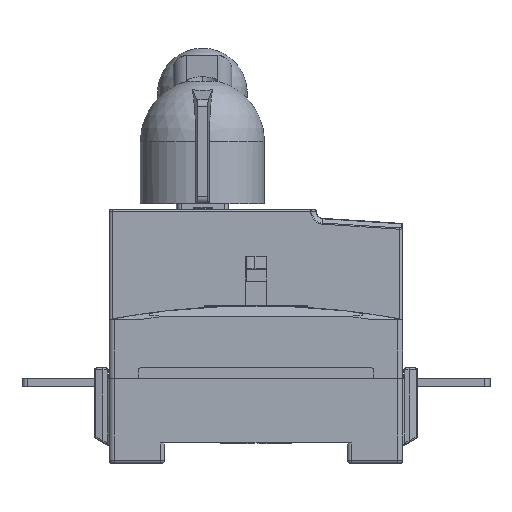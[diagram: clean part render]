
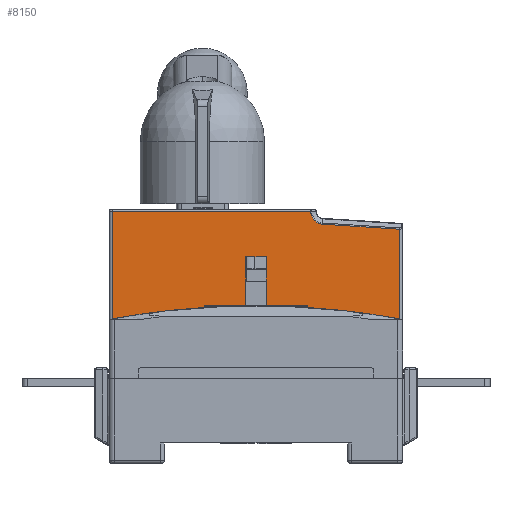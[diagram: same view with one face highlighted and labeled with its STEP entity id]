
A CAD part, left-side view. The second image highlights one B-rep face of the part: STEP entity #8150.
In plain terms, the highlighted planar face has unit normal (-1, 0, 0).
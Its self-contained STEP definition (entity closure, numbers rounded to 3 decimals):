
#2451=DIRECTION('',(0.,1.,0.));
#2452=VECTOR('',#2451,38.5);
#2453=CARTESIAN_POINT('',(-30.,3.,0.));
#2454=LINE('',#2453,#2452);
#2458=DIRECTION('',(0.,1.,0.));
#2459=VECTOR('',#2458,38.5);
#2460=CARTESIAN_POINT('',(-30.,-41.5,0.));
#2461=LINE('',#2460,#2459);
#2518=DIRECTION('',(0.,0.,1.));
#2519=VECTOR('',#2518,18.2);
#2520=CARTESIAN_POINT('',(-30.,3.,0.));
#2521=LINE('',#2520,#2519);
#2525=CARTESIAN_POINT('',(-30.,-19.5,31.3));
#2526=DIRECTION('',(1.,0.,0.));
#2527=DIRECTION('',(0.,0.065,-0.998));
#2528=AXIS2_PLACEMENT_3D('',#2525,#2526,#2527);
#2533=DIRECTION('',(0.,0.998,0.065));
#2534=VECTOR('',#2533,22.288);
#2535=CARTESIAN_POINT('',(-30.,-41.5,26.154));
#2536=LINE('',#2535,#2534);
#2547=DIRECTION('',(0.,0.,-1.));
#2548=VECTOR('',#2547,26.154);
#2549=CARTESIAN_POINT('',(-30.,-41.5,26.154));
#2550=LINE('',#2549,#2548);
#2627=DIRECTION('',(0.,0.,1.));
#2628=VECTOR('',#2627,31.3);
#2629=CARTESIAN_POINT('',(-30.,41.5,0.));
#2630=LINE('',#2629,#2628);
#2665=DIRECTION('',(0.,-1.,0.));
#2666=VECTOR('',#2665,57.293);
#2667=CARTESIAN_POINT('',(-30.,41.5,31.3));
#2668=LINE('',#2667,#2666);
#6213=DIRECTION('',(0.,0.,1.));
#6214=VECTOR('',#6213,18.2);
#6215=CARTESIAN_POINT('',(-30.,-3.,0.));
#6216=LINE('',#6215,#6214);
#6576=DIRECTION('',(0.,1.,0.));
#6577=VECTOR('',#6576,6.);
#6578=CARTESIAN_POINT('',(-30.,-3.,18.2));
#6579=LINE('',#6578,#6577);
#6923=CARTESIAN_POINT('',(-30.,3.,0.));
#6925=VERTEX_POINT('',#6923);
#6956=CARTESIAN_POINT('',(-30.,-41.5,26.154));
#6958=VERTEX_POINT('',#6956);
#6960=CARTESIAN_POINT('',(-30.,-41.5,0.));
#6962=VERTEX_POINT('',#6960);
#6963=CARTESIAN_POINT('',(-30.,-15.793,31.3));
#6964=VERTEX_POINT('',#6963);
#7051=CARTESIAN_POINT('',(-30.,-3.,0.));
#7052=CARTESIAN_POINT('',(-30.,-3.,18.2));
#7053=VERTEX_POINT('',#7051);
#7054=VERTEX_POINT('',#7052);
#7067=CARTESIAN_POINT('',(-30.,41.5,31.3));
#7068=VERTEX_POINT('',#7067);
#7207=CARTESIAN_POINT('',(-30.,3.,18.2));
#7208=VERTEX_POINT('',#7207);
#7267=CARTESIAN_POINT('',(-30.,41.5,0.));
#7268=VERTEX_POINT('',#7267);
#7423=CARTESIAN_POINT('',(-30.,-19.259,27.601));
#7424=VERTEX_POINT('',#7423);
#8125=CARTESIAN_POINT('',(-30.,-42.5,31.8));
#8126=DIRECTION('',(1.,0.,0.));
#8127=DIRECTION('',(0.,0.,-1.));
#8128=AXIS2_PLACEMENT_3D('',#8125,#8126,#8127);
#8129=PLANE('',#8128);
#8131=ORIENTED_EDGE('',*,*,#8130,.T.);
#8132=ORIENTED_EDGE('',*,*,#8106,.T.);
#8134=ORIENTED_EDGE('',*,*,#8133,.T.);
#8136=ORIENTED_EDGE('',*,*,#8135,.T.);
#8138=ORIENTED_EDGE('',*,*,#8137,.F.);
#8139=ORIENTED_EDGE('',*,*,#8080,.T.);
#8141=ORIENTED_EDGE('',*,*,#8140,.T.);
#8143=ORIENTED_EDGE('',*,*,#8142,.T.);
#8145=ORIENTED_EDGE('',*,*,#8144,.F.);
#8147=ORIENTED_EDGE('',*,*,#8146,.F.);
#8148=EDGE_LOOP('',(#8131,#8132,#8134,#8136,#8138,#8139,#8141,#8143,#8145,
#8147));
#8149=FACE_OUTER_BOUND('',#8148,.F.);
#2529=CIRCLE('',#2528,3.707);
#8080=EDGE_CURVE('',#6925,#7268,#2454,.T.);
#8106=EDGE_CURVE('',#6962,#7053,#2461,.T.);
#8130=EDGE_CURVE('',#6958,#6962,#2550,.T.);
#8133=EDGE_CURVE('',#7053,#7054,#6216,.T.);
#8135=EDGE_CURVE('',#7054,#7208,#6579,.T.);
#8137=EDGE_CURVE('',#6925,#7208,#2521,.T.);
#8140=EDGE_CURVE('',#7268,#7068,#2630,.T.);
#8142=EDGE_CURVE('',#7068,#6964,#2668,.T.);
#8144=EDGE_CURVE('',#7424,#6964,#2529,.T.);
#8146=EDGE_CURVE('',#6958,#7424,#2536,.T.);
#8150=ADVANCED_FACE('',(#8149),#8129,.F.);
